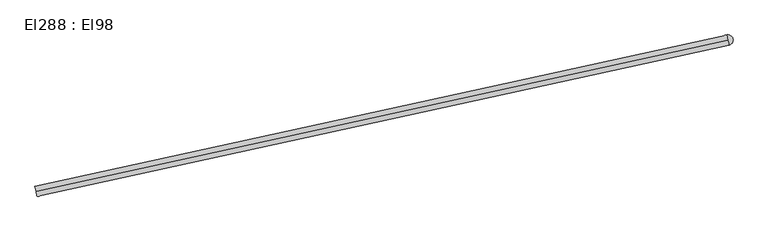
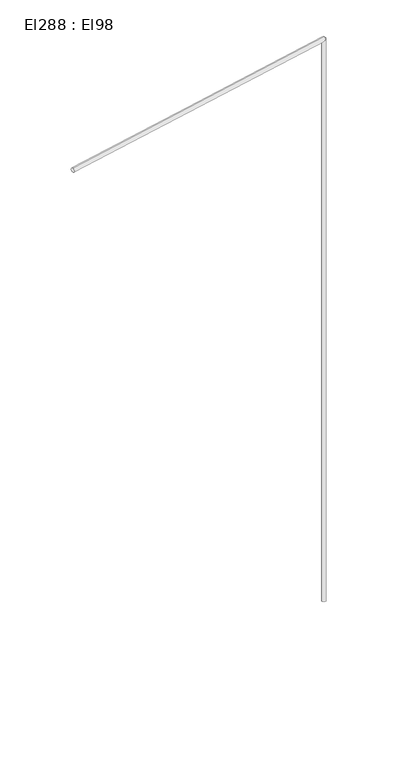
"""IFC4 building model written with IfcOpenShell, lengths in millimetres: cable carrier segment geometry, El288 : El98."""

from ifc_helpers import new_model, si_unit, point, frame, frame_2d, origin, place, context, project, spatial, circle_curve, trimmed, segment, composite_curve, outline, extrude, source, transform, mapped, element, save


def el288_el98_92580963(model_context):
    return source(origin(), model_context, "Body", "SweptSolid", [
        extrude(outline(composite_curve([segment(trimmed(circle_curve(frame_2d((27744.4596511, 9330.1141745)), 9.5), [point((27734.9596511, 9330.1141745))], [point((27753.9596511, 9330.1141745))], False, "CARTESIAN"), True, "CONTINUOUS"), segment(trimmed(circle_curve(frame_2d((27744.4596511, 9330.1141745)), 9.5), [point((27753.9596511, 9330.1141745))], [point((27734.9596511, 9330.1141745))], False, "CARTESIAN"), True, "CONTINUOUS")], self_intersect=False)), frame((0.0, 0.0, 1830.0), z_axis=(0.0, 0.0, 1.0), x_axis=(1.0, 0.0, 0.0)), (0.0, 0.0, 1.0), 2620.0),
        extrude(outline(composite_curve([segment(trimmed(circle_curve(frame_2d((0.0, -9.5)), 9.5), [point((0.0, -19.0))], [point((0.0, 0.0))], False, "CARTESIAN"), True, "CONTINUOUS"), segment(trimmed(circle_curve(frame_2d((0.0, -9.5)), 9.5), [point((0.0, 0.0))], [point((0.0, -19.0))], False, "CARTESIAN"), True, "CONTINUOUS")], self_intersect=False)), frame((26476.0246511, 9051.8891745, 4459.5), z_axis=(0.976778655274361, 0.21425092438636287, 0.0), x_axis=(-0.21425092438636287, 0.976778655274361, 0.0)), (0.0, 0.0, 1.0), 1298.59),
    ])


if __name__ == "__main__":
    model = new_model("IFC4")
    model_context = context("Model", 3, world=origin())
    ifc_project = project(units=[si_unit("LENGTHUNIT", "METRE", prefix="MILLI")], contexts=[model_context])
    site = spatial("IfcSite", under=ifc_project)
    building = spatial("IfcBuilding", under=site)
    placement = place(None, origin())
    el288_el98_shape = el288_el98_92580963(model_context)
    element("IfcCableCarrierSegment", 1, ObjectType="El288 : El98", at=placement, inside=building, context=model_context, shape_type="MappedRepresentation", body=[
        mapped(el288_el98_shape, transform((0.0, 0.0, 0.0), x_axis=(1.0, 0.0, 0.0), y_axis=(0.0, 1.0, 0.0), z_axis=(0.0, 0.0, 1.0))),
    ])
    save(model, "model.ifc")
